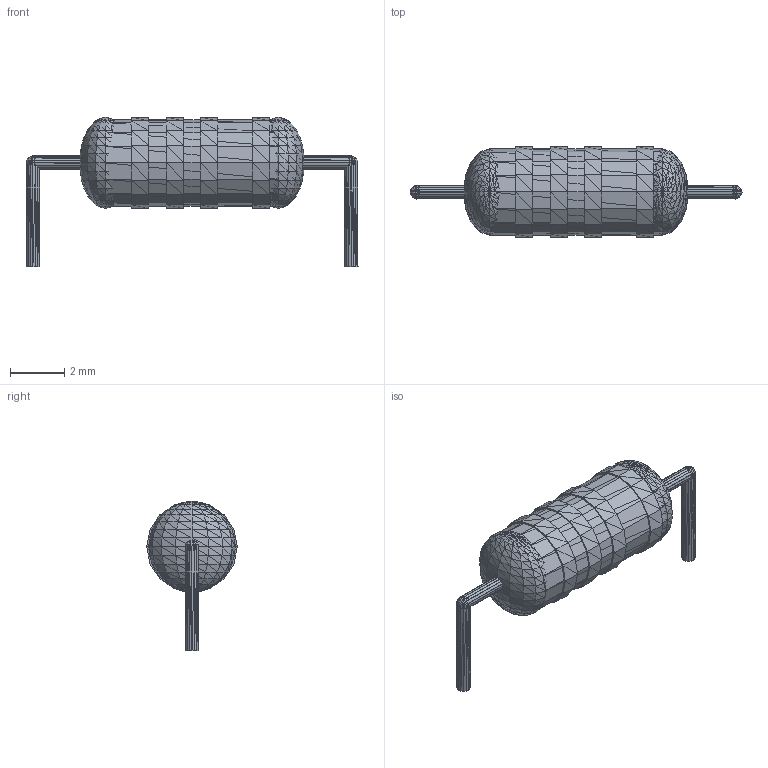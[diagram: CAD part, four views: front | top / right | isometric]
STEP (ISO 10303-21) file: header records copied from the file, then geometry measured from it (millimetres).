
FILE_DESCRIPTION(('HOOPS Exchange Step'),'2;1');
FILE_NAME('***.stp');
FILE_SCHEMA( ('AP242_MANAGED_MODEL_BASED_3D_ENGINEERING_MIM_LF {1 0 10303 442 1 1 4 }') );
Length unit declared in the file: inch
Products named in the file (7): R_1-2W_1.5K_2; R_1-2W_1.5K_3; R_1-2W_1.5K_4; R_1-2W_1.5K_5; R_1-2W_1.5K_6; R_1-2W_1.5K_7; R_1-2W_1.5K
Assembly tree (6 placements, depth 2):
  R_1-2W_1.5K
    R_1-2W_1.5K_2
    R_1-2W_1.5K_3
    R_1-2W_1.5K_4
    R_1-2W_1.5K_5
    R_1-2W_1.5K_6
    R_1-2W_1.5K_7
Bounding box: 12.19 x 3.33 x 5.48 mm (x, y, z)
Volume: 74.2 mm3; surface area: 255.4 mm2
Topology: 9 solids, 14 shells, 2432 faces, 3612 edges, 1202 vertices
Faces by surface type: plane 2432
Entity records: 47542 total; most frequent: DIRECTION 8504, ORIENTED_EDGE 7296, CARTESIAN_POINT 7260, VECTOR 3612, LINE 3612, EDGE_CURVE 3612, AXIS2_PLACEMENT_3D 2446, PLANE 2432
